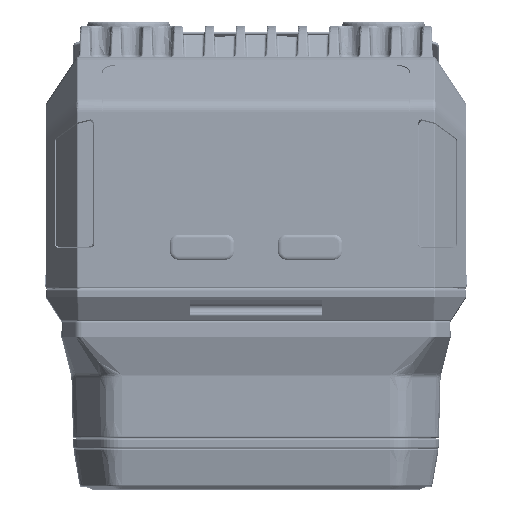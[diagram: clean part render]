
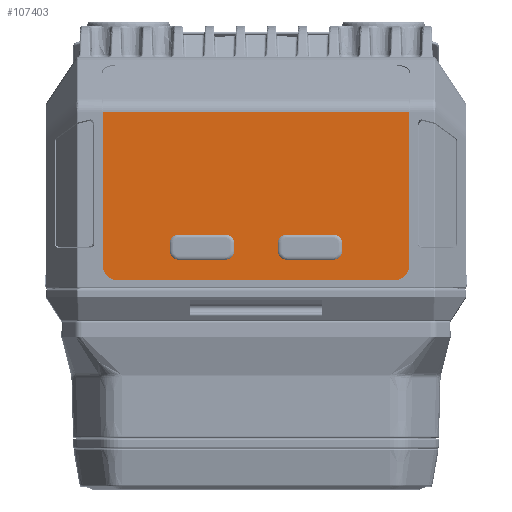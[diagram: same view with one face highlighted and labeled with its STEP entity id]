
A CAD part, top view. The second image highlights one B-rep face of the part: STEP entity #107403.
In plain terms, the highlighted planar face has unit normal (0, 0, 1).
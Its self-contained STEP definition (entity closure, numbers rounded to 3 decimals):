
#106488=CARTESIAN_POINT('',(17.85,4.15,38.));
#106489=DIRECTION('',(0.,0.,-1.));
#106490=DIRECTION('',(1.,0.,0.));
#106491=AXIS2_PLACEMENT_3D('',#106488,#106489,#106490);
#106493=DIRECTION('',(-1.,0.,0.));
#106494=VECTOR('',#106493,35.7);
#106495=CARTESIAN_POINT('',(17.85,2.3,38.));
#106496=LINE('',#106495,#106494);
#106497=CARTESIAN_POINT('',(-17.85,4.15,38.));
#106498=DIRECTION('',(0.,0.,-1.));
#106499=DIRECTION('',(0.,-1.,0.));
#106500=AXIS2_PLACEMENT_3D('',#106497,#106498,#106499);
#106502=DIRECTION('',(0.,1.,0.));
#106503=VECTOR('',#106502,19.723);
#106504=CARTESIAN_POINT('',(-19.7,4.15,38.));
#106505=LINE('',#106504,#106503);
#106506=DIRECTION('',(0.,-1.,0.));
#106507=VECTOR('',#106506,19.723);
#106508=CARTESIAN_POINT('',(19.7,23.873,38.));
#106509=LINE('',#106508,#106507);
#106510=CARTESIAN_POINT('',(-9.95,6.05,38.));
#106511=DIRECTION('',(0.,0.,1.));
#106512=DIRECTION('',(-1.,0.,0.));
#106513=AXIS2_PLACEMENT_3D('',#106510,#106511,#106512);
#106515=CARTESIAN_POINT('',(-3.95,6.05,38.));
#106516=DIRECTION('',(0.,0.,1.));
#106517=DIRECTION('',(0.,-1.,0.));
#106518=AXIS2_PLACEMENT_3D('',#106515,#106516,#106517);
#106520=CARTESIAN_POINT('',(-3.95,7.05,38.));
#106521=DIRECTION('',(0.,0.,1.));
#106522=DIRECTION('',(1.,0.,0.));
#106523=AXIS2_PLACEMENT_3D('',#106520,#106521,#106522);
#106525=CARTESIAN_POINT('',(-9.95,7.05,38.));
#106526=DIRECTION('',(0.,0.,1.));
#106527=DIRECTION('',(0.,1.,0.));
#106528=AXIS2_PLACEMENT_3D('',#106525,#106526,#106527);
#106530=CARTESIAN_POINT('',(3.95,7.05,38.));
#106531=DIRECTION('',(0.,0.,1.));
#106532=DIRECTION('',(0.,1.,0.));
#106533=AXIS2_PLACEMENT_3D('',#106530,#106531,#106532);
#106535=CARTESIAN_POINT('',(3.95,6.05,38.));
#106536=DIRECTION('',(0.,0.,1.));
#106537=DIRECTION('',(-1.,0.,0.));
#106538=AXIS2_PLACEMENT_3D('',#106535,#106536,#106537);
#106540=CARTESIAN_POINT('',(9.95,6.05,38.));
#106541=DIRECTION('',(0.,0.,1.));
#106542=DIRECTION('',(0.,-1.,0.));
#106543=AXIS2_PLACEMENT_3D('',#106540,#106541,#106542);
#106545=CARTESIAN_POINT('',(9.95,7.05,38.));
#106546=DIRECTION('',(0.,0.,1.));
#106547=DIRECTION('',(1.,0.,0.));
#106548=AXIS2_PLACEMENT_3D('',#106545,#106546,#106547);
#106576=DIRECTION('',(-1.,0.,0.));
#106577=VECTOR('',#106576,39.4);
#106578=CARTESIAN_POINT('',(19.7,23.873,38.));
#106579=LINE('',#106578,#106577);
#106976=DIRECTION('',(0.,1.,0.));
#106977=VECTOR('',#106976,1.);
#106978=CARTESIAN_POINT('',(-11.075,6.05,38.));
#106979=LINE('',#106978,#106977);
#107014=DIRECTION('',(1.,0.,0.));
#107015=VECTOR('',#107014,6.);
#107016=CARTESIAN_POINT('',(-9.95,8.175,38.));
#107017=LINE('',#107016,#107015);
#107032=DIRECTION('',(0.,-1.,0.));
#107033=VECTOR('',#107032,1.);
#107034=CARTESIAN_POINT('',(-2.825,7.05,38.));
#107035=LINE('',#107034,#107033);
#107050=DIRECTION('',(-1.,0.,0.));
#107051=VECTOR('',#107050,6.);
#107052=CARTESIAN_POINT('',(-3.95,4.925,38.));
#107053=LINE('',#107052,#107051);
#107068=DIRECTION('',(1.,0.,0.));
#107069=VECTOR('',#107068,6.);
#107070=CARTESIAN_POINT('',(3.95,8.175,38.));
#107071=LINE('',#107070,#107069);
#107106=DIRECTION('',(0.,-1.,0.));
#107107=VECTOR('',#107106,1.);
#107108=CARTESIAN_POINT('',(11.075,7.05,38.));
#107109=LINE('',#107108,#107107);
#107124=DIRECTION('',(-1.,0.,0.));
#107125=VECTOR('',#107124,6.);
#107126=CARTESIAN_POINT('',(9.95,4.925,38.));
#107127=LINE('',#107126,#107125);
#107142=DIRECTION('',(0.,1.,0.));
#107143=VECTOR('',#107142,1.);
#107144=CARTESIAN_POINT('',(2.825,6.05,38.));
#107145=LINE('',#107144,#107143);
#107156=CARTESIAN_POINT('',(19.7,4.15,38.));
#107157=CARTESIAN_POINT('',(17.85,2.3,38.));
#107158=VERTEX_POINT('',#107156);
#107159=VERTEX_POINT('',#107157);
#107160=CARTESIAN_POINT('',(-17.85,2.3,38.));
#107161=VERTEX_POINT('',#107160);
#107162=CARTESIAN_POINT('',(-19.7,4.15,38.));
#107163=VERTEX_POINT('',#107162);
#107164=CARTESIAN_POINT('',(-19.7,23.873,38.));
#107165=VERTEX_POINT('',#107164);
#107166=CARTESIAN_POINT('',(19.7,23.873,38.));
#107167=VERTEX_POINT('',#107166);
#107168=CARTESIAN_POINT('',(-11.075,6.05,38.));
#107169=CARTESIAN_POINT('',(-11.075,7.05,38.));
#107170=VERTEX_POINT('',#107168);
#107171=VERTEX_POINT('',#107169);
#107172=CARTESIAN_POINT('',(-9.95,4.925,38.));
#107173=VERTEX_POINT('',#107172);
#107174=CARTESIAN_POINT('',(-3.95,4.925,38.));
#107175=VERTEX_POINT('',#107174);
#107176=CARTESIAN_POINT('',(-2.825,6.05,38.));
#107177=VERTEX_POINT('',#107176);
#107178=CARTESIAN_POINT('',(-2.825,7.05,38.));
#107179=VERTEX_POINT('',#107178);
#107180=CARTESIAN_POINT('',(-3.95,8.175,38.));
#107181=VERTEX_POINT('',#107180);
#107182=CARTESIAN_POINT('',(-9.95,8.175,38.));
#107183=VERTEX_POINT('',#107182);
#107184=CARTESIAN_POINT('',(3.95,8.175,38.));
#107185=CARTESIAN_POINT('',(9.95,8.175,38.));
#107186=VERTEX_POINT('',#107184);
#107187=VERTEX_POINT('',#107185);
#107188=CARTESIAN_POINT('',(2.825,7.05,38.));
#107189=VERTEX_POINT('',#107188);
#107190=CARTESIAN_POINT('',(2.825,6.05,38.));
#107191=VERTEX_POINT('',#107190);
#107192=CARTESIAN_POINT('',(3.95,4.925,38.));
#107193=VERTEX_POINT('',#107192);
#107194=CARTESIAN_POINT('',(9.95,4.925,38.));
#107195=VERTEX_POINT('',#107194);
#107196=CARTESIAN_POINT('',(11.075,6.05,38.));
#107197=VERTEX_POINT('',#107196);
#107198=CARTESIAN_POINT('',(11.075,7.05,38.));
#107199=VERTEX_POINT('',#107198);
#107348=CARTESIAN_POINT('',(0.,0.,38.));
#107349=DIRECTION('',(0.,0.,1.));
#107350=DIRECTION('',(1.,0.,0.));
#107351=AXIS2_PLACEMENT_3D('',#107348,#107349,#107350);
#107352=PLANE('',#107351);
#107354=ORIENTED_EDGE('',*,*,#107353,.T.);
#107356=ORIENTED_EDGE('',*,*,#107355,.T.);
#107358=ORIENTED_EDGE('',*,*,#107357,.T.);
#107360=ORIENTED_EDGE('',*,*,#107359,.T.);
#107362=ORIENTED_EDGE('',*,*,#107361,.F.);
#107364=ORIENTED_EDGE('',*,*,#107363,.T.);
#107365=EDGE_LOOP('',(#107354,#107356,#107358,#107360,#107362,#107364));
#107366=FACE_OUTER_BOUND('',#107365,.F.);
#107368=ORIENTED_EDGE('',*,*,#107367,.F.);
#107370=ORIENTED_EDGE('',*,*,#107369,.T.);
#107372=ORIENTED_EDGE('',*,*,#107371,.F.);
#107374=ORIENTED_EDGE('',*,*,#107373,.T.);
#107376=ORIENTED_EDGE('',*,*,#107375,.F.);
#107378=ORIENTED_EDGE('',*,*,#107377,.T.);
#107380=ORIENTED_EDGE('',*,*,#107379,.F.);
#107382=ORIENTED_EDGE('',*,*,#107381,.T.);
#107383=EDGE_LOOP('',(#107368,#107370,#107372,#107374,#107376,#107378,#107380,
#107382));
#107384=FACE_BOUND('',#107383,.F.);
#107386=ORIENTED_EDGE('',*,*,#107385,.F.);
#107388=ORIENTED_EDGE('',*,*,#107387,.T.);
#107390=ORIENTED_EDGE('',*,*,#107389,.F.);
#107392=ORIENTED_EDGE('',*,*,#107391,.T.);
#107394=ORIENTED_EDGE('',*,*,#107393,.F.);
#107396=ORIENTED_EDGE('',*,*,#107395,.T.);
#107398=ORIENTED_EDGE('',*,*,#107397,.F.);
#107400=ORIENTED_EDGE('',*,*,#107399,.T.);
#107401=EDGE_LOOP('',(#107386,#107388,#107390,#107392,#107394,#107396,#107398,
#107400));
#107402=FACE_BOUND('',#107401,.F.);
#106492=CIRCLE('',#106491,1.85);
#106501=CIRCLE('',#106500,1.85);
#106514=CIRCLE('',#106513,1.125);
#106519=CIRCLE('',#106518,1.125);
#106524=CIRCLE('',#106523,1.125);
#106529=CIRCLE('',#106528,1.125);
#106534=CIRCLE('',#106533,1.125);
#106539=CIRCLE('',#106538,1.125);
#106544=CIRCLE('',#106543,1.125);
#106549=CIRCLE('',#106548,1.125);
#107353=EDGE_CURVE('',#107158,#107159,#106492,.T.);
#107355=EDGE_CURVE('',#107159,#107161,#106496,.T.);
#107357=EDGE_CURVE('',#107161,#107163,#106501,.T.);
#107359=EDGE_CURVE('',#107163,#107165,#106505,.T.);
#107361=EDGE_CURVE('',#107167,#107165,#106579,.T.);
#107363=EDGE_CURVE('',#107167,#107158,#106509,.T.);
#107367=EDGE_CURVE('',#107170,#107171,#106979,.T.);
#107369=EDGE_CURVE('',#107170,#107173,#106514,.T.);
#107371=EDGE_CURVE('',#107175,#107173,#107053,.T.);
#107373=EDGE_CURVE('',#107175,#107177,#106519,.T.);
#107375=EDGE_CURVE('',#107179,#107177,#107035,.T.);
#107377=EDGE_CURVE('',#107179,#107181,#106524,.T.);
#107379=EDGE_CURVE('',#107183,#107181,#107017,.T.);
#107381=EDGE_CURVE('',#107183,#107171,#106529,.T.);
#107385=EDGE_CURVE('',#107186,#107187,#107071,.T.);
#107387=EDGE_CURVE('',#107186,#107189,#106534,.T.);
#107389=EDGE_CURVE('',#107191,#107189,#107145,.T.);
#107391=EDGE_CURVE('',#107191,#107193,#106539,.T.);
#107393=EDGE_CURVE('',#107195,#107193,#107127,.T.);
#107395=EDGE_CURVE('',#107195,#107197,#106544,.T.);
#107397=EDGE_CURVE('',#107199,#107197,#107109,.T.);
#107399=EDGE_CURVE('',#107199,#107187,#106549,.T.);
#107403=ADVANCED_FACE('',(#107366,#107384,#107402),#107352,.T.);
